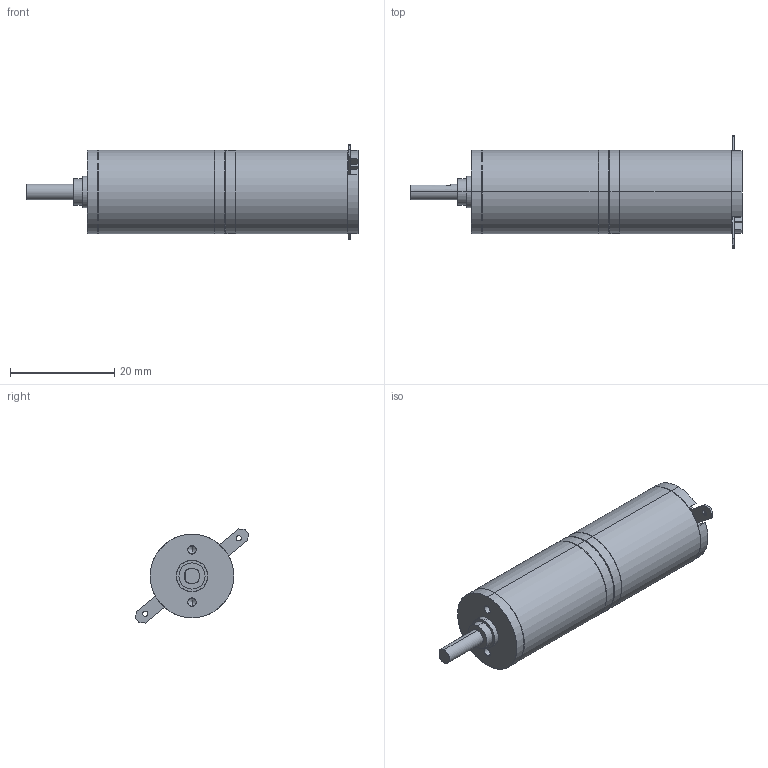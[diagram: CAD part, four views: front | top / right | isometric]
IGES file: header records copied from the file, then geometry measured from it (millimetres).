
Start section: SolidWorks IGES file using analytic representation for surfaces
Global section: file name: \\Uranus\R&D\plans\CATALOGUES\Topstock_Piece_IGES\AMax16CLL_+_GP016A 4etages.IGS; native system: SolidWorks 2008; preprocessor: SolidWorks 2008; author: JUL; date: 090325.182844; units: millimetre
Bounding box: 63.55 x 21.61 x 18.03 mm (x, y, z)
Surface area: 3855.5 mm2 (no closed solid volume)
Topology: 0 solids, 0 shells, 121 faces, 1278 edges, 1262 vertices
Faces by surface type: revolution 75, bspline 46
